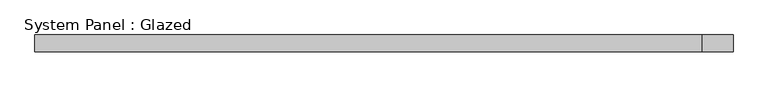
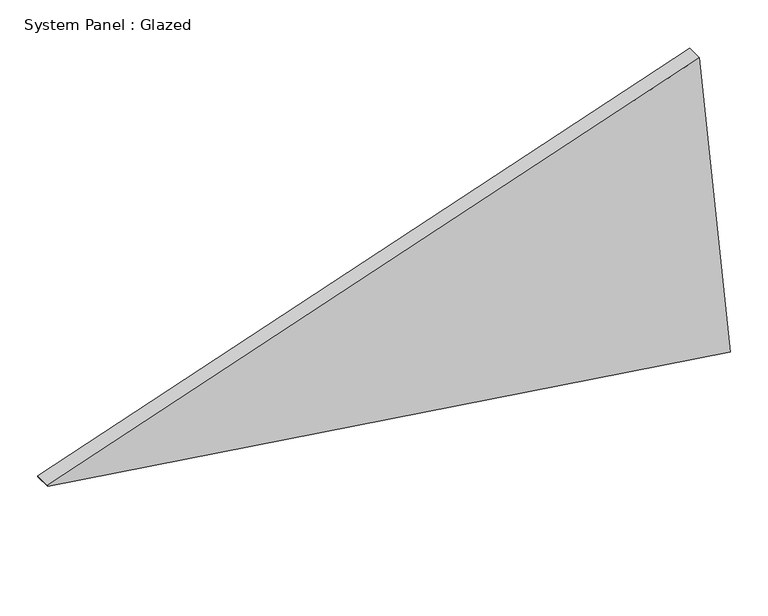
"""IFC4 building model written with IfcOpenShell, lengths in millimetres: plate geometry, System Panel : Glazed."""

from ifc_helpers import new_model, si_unit, frame, origin, place, context, project, spatial, polyline, outline, extrude, source, transform, mapped, element, save


def system_panel_glazed_3e9c906c(model_context):
    return source(origin(), model_context, "Body", "SweptSolid", [
        extrude(outline(polyline([(147.7192608, -520.8444774), (0.0, 520.9586067), (491.6448498, 473.8822224), (148.9111767, -520.9586067), (147.7192608, -520.8444774)])), frame((0.0, -44.45, 0.0), z_axis=(0.0, 1.0, 0.0), x_axis=(0.0, 0.0, 1.0)), (0.0, 0.0, 1.0), 25.4),
    ])


if __name__ == "__main__":
    model = new_model("IFC4")
    model_context = context("Model", 3, world=origin())
    ifc_project = project(units=[si_unit("LENGTHUNIT", "METRE", prefix="MILLI")], contexts=[model_context])
    site = spatial("IfcSite", under=ifc_project)
    building = spatial("IfcBuilding", under=site)
    placement = place(None, origin())
    system_panel_glazed_shape = system_panel_glazed_3e9c906c(model_context)
    element("IfcPlate", 1, ObjectType="System Panel : Glazed", at=placement, inside=building, context=model_context, shape_type="MappedRepresentation", body=[
        mapped(system_panel_glazed_shape, transform((0.0, 0.0, 0.0), x_axis=(1.0, 0.0, 0.0), y_axis=(0.0, 1.0, 0.0), z_axis=(0.0, 0.0, 1.0))),
    ])
    save(model, "model.ifc")
